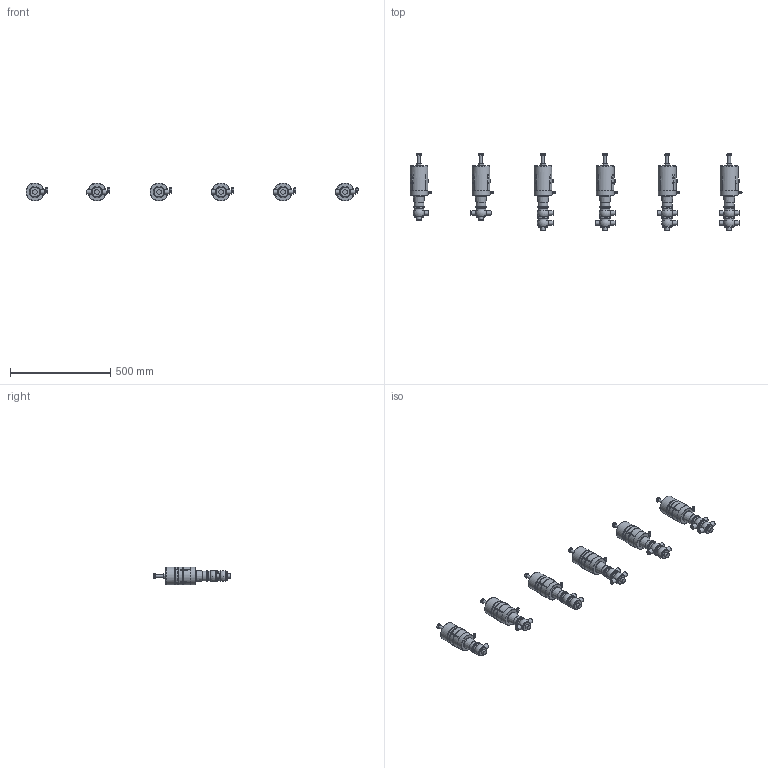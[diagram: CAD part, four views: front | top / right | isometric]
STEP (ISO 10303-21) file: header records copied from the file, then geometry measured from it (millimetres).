
FILE_DESCRIPTION((''),'2;1');
FILE_NAME('\\BV-SRV1\Ufficio tecnico\cad3d\PNEUMATICA\Ing1-1\pne bbzp e derivate\BBZS5\BBZS5-DN020-CIL83-SAL.iam.step','2009-10-19T10:17:39',(''),(''),'Autodesk Inventor 2010','Autodesk Inventor 2010','');
FILE_SCHEMA(('AUTOMOTIVE_DESIGN { 1 0 10303 214 1 1 1 1 }'));
Length unit declared in the file: millimetre
Products named in the file (7): BBZS5-DN020-CIL83-SAL; Assemblaggio-DN025; COR-INF-L-SAL-DN20; COR-INF-T-SAL-DN20; COR-SUP-L-SAL-DN20; COR-SUP-T-SAL-DN20; cil 83  tarabile
Assembly tree (22 placements, depth 2):
  BBZS5-DN020-CIL83-SAL
    Assemblaggio-DN025  x6
    COR-INF-L-SAL-DN20  x3
    COR-INF-T-SAL-DN20  x3
    COR-SUP-L-SAL-DN20  x2
    COR-SUP-T-SAL-DN20  x2
    cil 83  tarabile  x6
Bounding box: 1658.86 x 379.8 x 89.38 mm (x, y, z)
Volume: 7646644.6 mm3; surface area: 667000.4 mm2
Topology: 22 solids, 52 shells, 1308 faces, 3058 edges, 1845 vertices
Faces by surface type: plane 491, cylinder 343, cone 260, bspline 90, sphere 82, torus 42
Full cylindrical faces by diameter (mm): 4.9 x6, 6 x12, 7 x6, 8.3 x6, 10 x6, 11 x6, 11.5 x6, 14 x18, 19.37 x6, 23 x21, 49 x26, 57 x26, 84.813 x18, 86 x12, 86.1 x6, 88.5 x6, 89.5 x6
Entity records: 7432 total; most frequent: CARTESIAN_POINT 2035, DIRECTION 1064, ORIENTED_EDGE 900, AXIS2_PLACEMENT_3D 454, EDGE_CURVE 450, EDGE_LOOP 351, VERTEX_POINT 313, FACE_OUTER_BOUND 247
